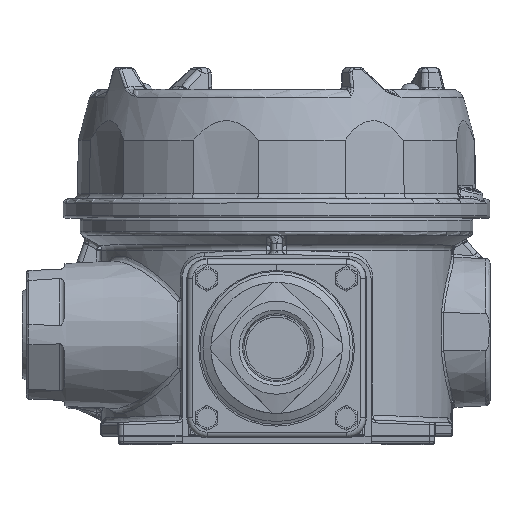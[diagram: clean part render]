
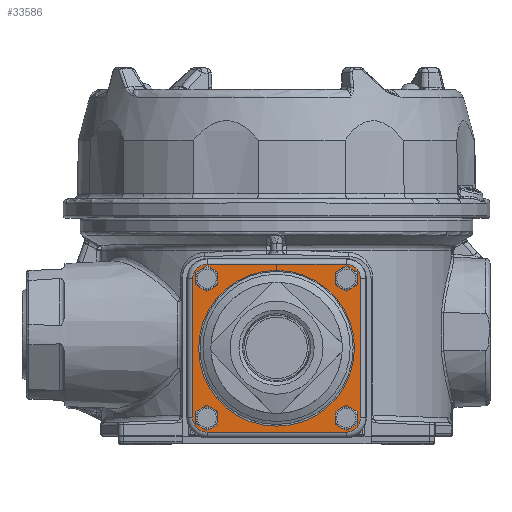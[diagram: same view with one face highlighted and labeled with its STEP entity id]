
A CAD part, top view. The second image highlights one B-rep face of the part: STEP entity #33586.
In plain terms, the highlighted planar face has unit normal (0, 0, 1).
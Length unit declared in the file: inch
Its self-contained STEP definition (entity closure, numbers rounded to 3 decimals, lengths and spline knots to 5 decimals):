
#1043 = VERTEX_POINT ( 'NONE', #26207 ) ;
#1474 = CARTESIAN_POINT ( 'NONE',  ( -0.7965, -0.7965, 2.48416 ) ) ;
#1709 = AXIS2_PLACEMENT_3D ( 'NONE', #19069, #3696, #28875 ) ;
#1821 = ORIENTED_EDGE ( 'NONE', *, *, #28159, .T. ) ;
#2213 = DIRECTION ( 'NONE',  ( 0., 0., 1. ) ) ;
#2233 = VECTOR ( 'NONE', #28970, 39.37008 ) ;
#2484 = EDGE_CURVE ( 'NONE', #1043, #1043, #35095, .T. ) ;
#2816 = DIRECTION ( 'NONE',  ( 0., 1., 0. ) ) ;
#3136 = EDGE_CURVE ( 'NONE', #33123, #8103, #16958, .T. ) ;
#3696 = DIRECTION ( 'NONE',  ( 0., 0., 1. ) ) ;
#3815 = VERTEX_POINT ( 'NONE', #38322 ) ;
#3832 = ORIENTED_EDGE ( 'NONE', *, *, #35539, .T. ) ;
#3917 = CARTESIAN_POINT ( 'NONE',  ( -0.795, 0.95922, 2.48416 ) ) ;
#4107 = FACE_BOUND ( 'NONE', #29710, .T. ) ;
#4147 = CARTESIAN_POINT ( 'NONE',  ( -0.00481, 0.89048, 2.48416 ) ) ;
#4268 = VERTEX_POINT ( 'NONE', #29648 ) ;
#4508 = CARTESIAN_POINT ( 'NONE',  ( 0.95922, -0.795, 2.48416 ) ) ;
#4630 = EDGE_CURVE ( 'NONE', #20002, #15477, #15460, .T. ) ;
#5154 = DIRECTION ( 'NONE',  ( 0., 0., -1. ) ) ;
#5272 = CARTESIAN_POINT ( 'NONE',  ( -0.7965, 0.7965, 2.48416 ) ) ;
#5325 = DIRECTION ( 'NONE',  ( 0., 0., -1. ) ) ;
#5342 = CARTESIAN_POINT ( 'NONE',  ( 0.95922, 0.795, 2.48416 ) ) ;
#5363 = DIRECTION ( 'NONE',  ( 0., -1., 0. ) ) ;
#5412 = LINE ( 'NONE', #17895, #23109 ) ;
#5491 = DIRECTION ( 'NONE',  ( 0., -1., 0. ) ) ;
#5593 = CIRCLE ( 'NONE', #35673, 0.16422 ) ;
#5926 = CARTESIAN_POINT ( 'NONE',  ( -0.795, 0.795, 2.48416 ) ) ;
#7308 = VERTEX_POINT ( 'NONE', #28117 ) ;
#8103 = VERTEX_POINT ( 'NONE', #35760 ) ;
#8149 = ORIENTED_EDGE ( 'NONE', *, *, #10933, .T. ) ;
#8457 = DIRECTION ( 'NONE',  ( 0., -1., 0. ) ) ;
#8510 = VERTEX_POINT ( 'NONE', #24856 ) ;
#8866 = VECTOR ( 'NONE', #37320, 39.37008 ) ;
#9628 = ORIENTED_EDGE ( 'NONE', *, *, #35841, .T. ) ;
#9891 = CARTESIAN_POINT ( 'NONE',  ( -0.795, 0.95922, 2.48416 ) ) ;
#10440 = FACE_BOUND ( 'NONE', #33265, .T. ) ;
#10933 = EDGE_CURVE ( 'NONE', #8510, #17586, #21442, .T. ) ;
#11004 = CARTESIAN_POINT ( 'NONE',  ( -0.7965, 0.708, 2.48416 ) ) ;
#11046 = CARTESIAN_POINT ( 'NONE',  ( 0., 0., 2.48416 ) ) ;
#11304 = CIRCLE ( 'NONE', #12622, 0.16422 ) ;
#11329 = VERTEX_POINT ( 'NONE', #4147 ) ;
#11368 = DIRECTION ( 'NONE',  ( 0., -1., 0. ) ) ;
#11597 = AXIS2_PLACEMENT_3D ( 'NONE', #11046, #5325, #13917 ) ;
#12000 = CARTESIAN_POINT ( 'NONE',  ( -0.95922, 0.795, 2.48416 ) ) ;
#12317 = LINE ( 'NONE', #24799, #8866 ) ;
#12622 = AXIS2_PLACEMENT_3D ( 'NONE', #32712, #13649, #13848 ) ;
#12832 = AXIS2_PLACEMENT_3D ( 'NONE', #1474, #5154, #5363 ) ;
#13107 = FACE_BOUND ( 'NONE', #36884, .T. ) ;
#13134 = EDGE_LOOP ( 'NONE', ( #24130, #3832, #37841, #8149, #23761, #35267, #1821, #38886, #39551, #26120, #17990, #29767 ) ) ;
#13647 = EDGE_CURVE ( 'NONE', #11329, #8510, #32885, .T. ) ;
#13649 = DIRECTION ( 'NONE',  ( 0., 0., 1. ) ) ;
#13775 = DIRECTION ( 'NONE',  ( 0., 0., -1. ) ) ;
#13848 = DIRECTION ( 'NONE',  ( 0., 1., 0. ) ) ;
#13917 = DIRECTION ( 'NONE',  ( 0., 1., 0. ) ) ;
#14242 = VECTOR ( 'NONE', #11368, 39.37008 ) ;
#14889 = DIRECTION ( 'NONE',  ( 0., 1., 0. ) ) ;
#15145 = DIRECTION ( 'NONE',  ( 0., 1., 0. ) ) ;
#15252 = EDGE_CURVE ( 'NONE', #15477, #25559, #12317, .T. ) ;
#15344 = VERTEX_POINT ( 'NONE', #38070 ) ;
#15460 = LINE ( 'NONE', #3917, #31362 ) ;
#15468 = CIRCLE ( 'NONE', #12832, 0.0885 ) ;
#15477 = VERTEX_POINT ( 'NONE', #40558 ) ;
#15703 = DIRECTION ( 'NONE',  ( -1., 0., 0. ) ) ;
#15841 = EDGE_CURVE ( 'NONE', #3815, #20002, #38284, .T. ) ;
#15889 = EDGE_CURVE ( 'NONE', #7308, #35372, #5593, .T. ) ;
#16481 = CARTESIAN_POINT ( 'NONE',  ( -0.00481, 0.86547, 2.48416 ) ) ;
#16798 = FACE_OUTER_BOUND ( 'NONE', #13134, .T. ) ;
#16958 = LINE ( 'NONE', #35413, #14242 ) ;
#16979 = CIRCLE ( 'NONE', #18951, 0.16422 ) ;
#17437 = AXIS2_PLACEMENT_3D ( 'NONE', #17476, #13775, #8457 ) ;
#17476 = CARTESIAN_POINT ( 'NONE',  ( 0.7965, 0.7965, 2.48416 ) ) ;
#17586 = VERTEX_POINT ( 'NONE', #9891 ) ;
#17816 = VECTOR ( 'NONE', #15703, 39.37008 ) ;
#17895 = CARTESIAN_POINT ( 'NONE',  ( 0.795, -0.95922, 2.48416 ) ) ;
#17971 = DIRECTION ( 'NONE',  ( 0., 0., -1. ) ) ;
#17990 = ORIENTED_EDGE ( 'NONE', *, *, #15841, .T. ) ;
#18001 = DIRECTION ( 'NONE',  ( 0., 0., 1. ) ) ;
#18020 = LINE ( 'NONE', #5342, #26015 ) ;
#18951 = AXIS2_PLACEMENT_3D ( 'NONE', #5926, #18001, #30500 ) ;
#19069 = CARTESIAN_POINT ( 'NONE',  ( 0.795, 0.795, 2.48416 ) ) ;
#19891 = EDGE_CURVE ( 'NONE', #35372, #3815, #18020, .T. ) ;
#20002 = VERTEX_POINT ( 'NONE', #31732 ) ;
#20175 = EDGE_CURVE ( 'NONE', #15344, #15344, #28629, .T. ) ;
#21041 = EDGE_CURVE ( 'NONE', #17586, #33123, #16979, .T. ) ;
#21442 = LINE ( 'NONE', #28389, #17816 ) ;
#22731 = CIRCLE ( 'NONE', #31906, 0.0885 ) ;
#23109 = VECTOR ( 'NONE', #27494, 39.37008 ) ;
#23761 = ORIENTED_EDGE ( 'NONE', *, *, #21041, .T. ) ;
#24130 = ORIENTED_EDGE ( 'NONE', *, *, #15252, .T. ) ;
#24799 = CARTESIAN_POINT ( 'NONE',  ( 0.00361, 0.95922, 2.48416 ) ) ;
#24856 = CARTESIAN_POINT ( 'NONE',  ( -0.00481, 0.95922, 2.48416 ) ) ;
#24995 = CARTESIAN_POINT ( 'NONE',  ( 0.00361, 0.89049, 2.48416 ) ) ;
#25172 = VERTEX_POINT ( 'NONE', #29738 ) ;
#25559 = VERTEX_POINT ( 'NONE', #24995 ) ;
#25810 = DIRECTION ( 'NONE',  ( -1., 0., 0. ) ) ;
#26015 = VECTOR ( 'NONE', #15145, 39.37008 ) ;
#26120 = ORIENTED_EDGE ( 'NONE', *, *, #19891, .T. ) ;
#26207 = CARTESIAN_POINT ( 'NONE',  ( 0.7965, 0.708, 2.48416 ) ) ;
#27375 = CARTESIAN_POINT ( 'NONE',  ( 0.795, -0.795, 2.48416 ) ) ;
#27494 = DIRECTION ( 'NONE',  ( 1., 0., 0. ) ) ;
#28117 = CARTESIAN_POINT ( 'NONE',  ( 0.795, -0.95922, 2.48416 ) ) ;
#28159 = EDGE_CURVE ( 'NONE', #8103, #25172, #11304, .T. ) ;
#28389 = CARTESIAN_POINT ( 'NONE',  ( -0.795, 0.95922, 2.48416 ) ) ;
#28467 = FACE_BOUND ( 'NONE', #32403, .T. ) ;
#28629 = CIRCLE ( 'NONE', #33897, 0.0885 ) ;
#28740 = EDGE_CURVE ( 'NONE', #25172, #7308, #5412, .T. ) ;
#28875 = DIRECTION ( 'NONE',  ( 0., 1., 0. ) ) ;
#28970 = DIRECTION ( 'NONE',  ( 0., 1., 0. ) ) ;
#29263 = CIRCLE ( 'NONE', #11597, 0.8905 ) ;
#29648 = CARTESIAN_POINT ( 'NONE',  ( -0.7965, -0.885, 2.48416 ) ) ;
#29710 = EDGE_LOOP ( 'NONE', ( #33055 ) ) ;
#29738 = CARTESIAN_POINT ( 'NONE',  ( -0.795, -0.95922, 2.48416 ) ) ;
#29767 = ORIENTED_EDGE ( 'NONE', *, *, #4630, .T. ) ;
#30462 = CARTESIAN_POINT ( 'NONE',  ( 0.795, 0.795, 2.48416 ) ) ;
#30500 = DIRECTION ( 'NONE',  ( 0., 1., 0. ) ) ;
#30938 = ORIENTED_EDGE ( 'NONE', *, *, #20175, .T. ) ;
#31136 = ORIENTED_EDGE ( 'NONE', *, *, #34127, .T. ) ;
#31362 = VECTOR ( 'NONE', #25810, 39.37008 ) ;
#31732 = CARTESIAN_POINT ( 'NONE',  ( 0.795, 0.95922, 2.48416 ) ) ;
#31906 = AXIS2_PLACEMENT_3D ( 'NONE', #5272, #36410, #36001 ) ;
#32399 = AXIS2_PLACEMENT_3D ( 'NONE', #30462, #2213, #14889 ) ;
#32403 = EDGE_LOOP ( 'NONE', ( #31136 ) ) ;
#32712 = CARTESIAN_POINT ( 'NONE',  ( -0.795, -0.795, 2.48416 ) ) ;
#32885 = LINE ( 'NONE', #16481, #2233 ) ;
#33055 = ORIENTED_EDGE ( 'NONE', *, *, #2484, .T. ) ;
#33123 = VERTEX_POINT ( 'NONE', #12000 ) ;
#33265 = EDGE_LOOP ( 'NONE', ( #30938 ) ) ;
#33586 = ADVANCED_FACE ( 'NONE', ( #16798, #28467, #4107, #13107, #10440 ), #34651, .T. ) ;
#33897 = AXIS2_PLACEMENT_3D ( 'NONE', #36425, #17971, #5491 ) ;
#34127 = EDGE_CURVE ( 'NONE', #4268, #4268, #15468, .T. ) ;
#34651 = PLANE ( 'NONE',  #1709 ) ;
#35095 = CIRCLE ( 'NONE', #17437, 0.0885 ) ;
#35267 = ORIENTED_EDGE ( 'NONE', *, *, #3136, .T. ) ;
#35372 = VERTEX_POINT ( 'NONE', #4508 ) ;
#35413 = CARTESIAN_POINT ( 'NONE',  ( -0.95922, -0.795, 2.48416 ) ) ;
#35539 = EDGE_CURVE ( 'NONE', #25559, #11329, #29263, .T. ) ;
#35673 = AXIS2_PLACEMENT_3D ( 'NONE', #27375, #39889, #2816 ) ;
#35760 = CARTESIAN_POINT ( 'NONE',  ( -0.95922, -0.795, 2.48416 ) ) ;
#35811 = VERTEX_POINT ( 'NONE', #11004 ) ;
#35841 = EDGE_CURVE ( 'NONE', #35811, #35811, #22731, .T. ) ;
#36001 = DIRECTION ( 'NONE',  ( 0., -1., 0. ) ) ;
#36410 = DIRECTION ( 'NONE',  ( 0., 0., -1. ) ) ;
#36425 = CARTESIAN_POINT ( 'NONE',  ( 0.7965, -0.7965, 2.48416 ) ) ;
#36884 = EDGE_LOOP ( 'NONE', ( #9628 ) ) ;
#37320 = DIRECTION ( 'NONE',  ( 0., -1., 0. ) ) ;
#37841 = ORIENTED_EDGE ( 'NONE', *, *, #13647, .T. ) ;
#38070 = CARTESIAN_POINT ( 'NONE',  ( 0.7965, -0.885, 2.48416 ) ) ;
#38284 = CIRCLE ( 'NONE', #32399, 0.16422 ) ;
#38322 = CARTESIAN_POINT ( 'NONE',  ( 0.95922, 0.795, 2.48416 ) ) ;
#38886 = ORIENTED_EDGE ( 'NONE', *, *, #28740, .T. ) ;
#39551 = ORIENTED_EDGE ( 'NONE', *, *, #15889, .T. ) ;
#39889 = DIRECTION ( 'NONE',  ( 0., 0., 1. ) ) ;
#40558 = CARTESIAN_POINT ( 'NONE',  ( 0.00361, 0.95922, 2.48416 ) ) ;
